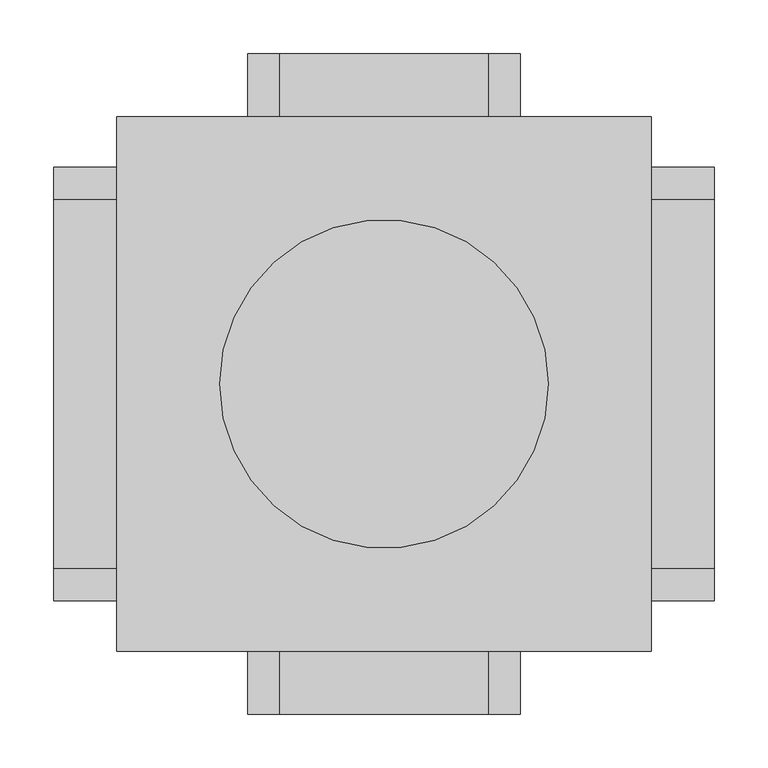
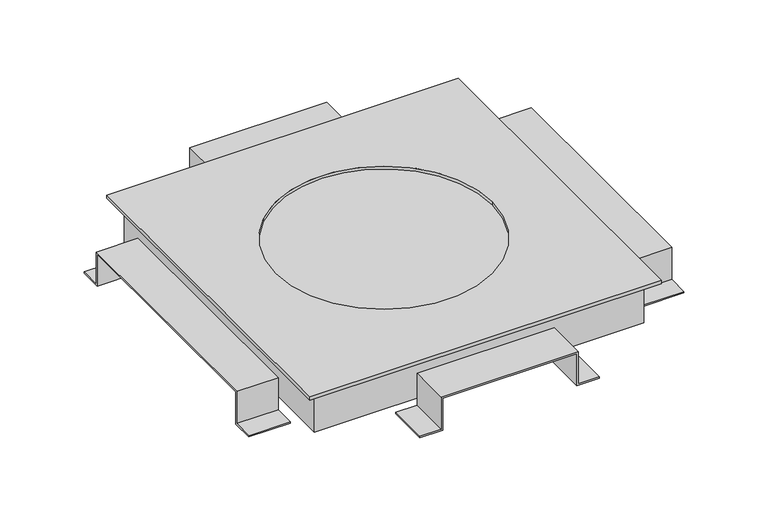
"""IFC4 building model written with IfcOpenShell, lengths in millimetres: cable carrier fitting geometry, Electrical-Installations_Hager_Universal-Junction-Box-With-Retaining-Tabs-Size-3 : Universal junction box with retaining tabs size 3."""

from ifc_helpers import new_model, si_unit, frame, origin, place, context, project, spatial, polyline, circle_curve, outline, extrude, faceted_brep, source, transform, mapped, element, save
from ifc_brep_helpers import plane_surface, revolved_surface, advanced_brep


def cable_carrier_fitting_cb3f23ee(model_context):
    return source(origin(), model_context, "Body", "SolidModel", [
        extrude(outline(polyline([(-24.0, -127.0), (-24.0, -95.0), (24.0, -95.0), (24.0, 95.0), (-24.0, 95.0), (-24.0, 127.0), (-22.0, 127.0), (-22.0, 97.0), (26.0, 97.0), (26.0, -97.0), (-22.0, -97.0), (-22.0, -127.0), (-24.0, -127.0)])), frame((0.0, 249.0, 0.0), z_axis=(0.0, 1.0, 0.0), x_axis=(0.0, 0.0, 1.0)), (0.0, 0.0, 1.0), 59.0),
        extrude(outline(polyline([(-202.0, -24.0), (-202.0, -22.0), (-172.0, -22.0), (-172.0, 26.0), (172.0, 26.0), (172.0, -22.0), (202.0, -22.0), (202.0, -24.0), (170.0, -24.0), (170.0, 24.0), (-170.0, 24.0), (-170.0, -24.0), (-202.0, -24.0)])), frame((-308.0, 0.0, 0.0), z_axis=(1.0, 0.0, 0.0), x_axis=(0.0, 1.0, 0.0)), (0.0, 0.0, 1.0), 59.0),
        extrude(outline(polyline([(-24.0, -127.0), (-24.0, -95.0), (24.0, -95.0), (24.0, 95.0), (-24.0, 95.0), (-24.0, 127.0), (-22.0, 127.0), (-22.0, 97.0), (26.0, 97.0), (26.0, -97.0), (-22.0, -97.0), (-22.0, -127.0), (-24.0, -127.0)])), frame((0.0, -308.0, 0.0), z_axis=(0.0, 1.0, 0.0), x_axis=(0.0, 0.0, 1.0)), (0.0, 0.0, 1.0), 59.0),
        extrude(outline(polyline([(-202.0, -24.0), (-202.0, -22.0), (-172.0, -22.0), (-172.0, 26.0), (172.0, 26.0), (172.0, -22.0), (202.0, -22.0), (202.0, -24.0), (170.0, -24.0), (170.0, 24.0), (-170.0, 24.0), (-170.0, -24.0), (-202.0, -24.0)])), frame((249.0, 0.0, 0.0), z_axis=(1.0, 0.0, 0.0), x_axis=(0.0, 1.0, 0.0)), (0.0, 0.0, 1.0), 59.0),
        advanced_brep(
        [(-249.0, -249.0, 44.0), (249.0, -249.0, 44.0), (249.0, 249.0, 44.0), (-249.0, 249.0, 44.0), (-153.0, 0.0, 44.0), (153.0, 0.0, 44.0), (-249.0, -249.0, 39.0), (-249.0, 249.0, 39.0), (249.0, 249.0, 39.0), (249.0, -249.0, 39.0), (227.0, 227.0, 39.0), (-227.0, 227.0, 39.0), (-227.0, -227.0, 39.0), (227.0, -227.0, 39.0), (-153.0, 0.0, 39.7820613), (153.0, 0.0, 39.7820613), (227.0, 227.0, 39.7820613), (227.0, -227.0, 39.7820613), (-227.0, -227.0, 39.7820613), (-227.0, 227.0, 39.7820613)],
        [
            (0, 1),
            (1, 2),
            (2, 3),
            (3, 0),
            (4, 5, circle_curve(frame((0.0, 0.0, 44.0), z_axis=(0.0, 0.0, -1.0), x_axis=(1.0, 0.0, 0.0)), 153.0)),
            (5, 4, circle_curve(frame((0.0, 0.0, 44.0), z_axis=(0.0, 0.0, -1.0), x_axis=(1.0, 0.0, 0.0)), 153.0)),
            (6, 7),
            (7, 8),
            (8, 9),
            (9, 6),
            (10, 11),
            (11, 12),
            (12, 13),
            (13, 10),
            (0, 6),
            (9, 1),
            (8, 2),
            (7, 3),
            (4, 14),
            (14, 15, circle_curve(frame((0.0, 0.0, 39.7820613), z_axis=(0.0, 0.0, -1.0), x_axis=(1.0, 0.0, 0.0)), 153.0)),
            (15, 5),
            (15, 14, circle_curve(frame((0.0, 0.0, 39.7820613), z_axis=(0.0, 0.0, -1.0), x_axis=(1.0, 0.0, 0.0)), 153.0)),
            (16, 17),
            (17, 18),
            (18, 19),
            (19, 16),
            (19, 11),
            (10, 16),
            (18, 12),
            (17, 13),
        ],
        [
            plane_surface(frame((-249.0, -249.0, 44.0), z_axis=(0.0, 0.0, 1.0), x_axis=(1.0, 0.0, 0.0))),
            plane_surface(frame((-249.0, -249.0, 39.0), z_axis=(0.0, 0.0, -1.0), x_axis=(-1.0, 0.0, 0.0))),
            plane_surface(frame((-249.0, -249.0, 44.0), z_axis=(0.0, -1.0, 0.0), x_axis=(0.0, 0.0, -1.0))),
            plane_surface(frame((249.0, -249.0, 44.0), z_axis=(1.0, 0.0, 0.0), x_axis=(0.0, 0.0, -1.0))),
            plane_surface(frame((249.0, 249.0, 44.0), z_axis=(0.0, 1.0, 0.0), x_axis=(0.0, 0.0, -1.0))),
            plane_surface(frame((-249.0, 249.0, 44.0), z_axis=(-1.0, 0.0, 0.0), x_axis=(0.0, 0.0, -1.0))),
            revolved_surface(polyline([(153.0, 0.0, 39.7820613), (153.0, 0.0, 44.0)]), (0.0, 0.0, 0.0), (0.0, 0.0, -1.0)),
            plane_surface(frame((-227.0, 227.0, 39.7820613), z_axis=(0.0, 0.0, -1.0), x_axis=(-1.0, 0.0, 0.0))),
            plane_surface(frame((227.0, 227.0, 39.7820613), z_axis=(0.0, -1.0, 0.0), x_axis=(0.0, 0.0, -1.0))),
            plane_surface(frame((-227.0, 227.0, 39.7820613), z_axis=(1.0, 0.0, 0.0), x_axis=(0.0, 0.0, -1.0))),
            plane_surface(frame((-227.0, -227.0, 39.7820613), z_axis=(0.0, 1.0, 0.0), x_axis=(0.0, 0.0, -1.0))),
            plane_surface(frame((227.0, -227.0, 39.7820613), z_axis=(-1.0, 0.0, 0.0), x_axis=(0.0, 0.0, -1.0))),
        ],
        [
            (0, [[1, 2, 3, 4], [5, 6]]),
            (1, [[7, 8, 9, 10], [11, 12, 13, 14]]),
            (2, [[-1, 15, -10, 16]]),
            (3, [[-2, -16, -9, 17]]),
            (4, [[-3, -17, -8, 18]]),
            (5, [[-4, -18, -7, -15]]),
            (6, [[-5, 19, 20, 21]]),
            (6, [[-6, -21, 22, -19]]),
            (7, [[23, 24, 25, 26], [-20, -22]]),
            (8, [[-26, 27, -11, 28]]),
            (9, [[-25, 29, -12, -27]]),
            (10, [[-24, 30, -13, -29]]),
            (11, [[-23, -28, -14, -30]]),
        ],
    ),
        faceted_brep([(-233.0, 233.0, 39.0), (-233.0, -233.0, 39.0), (233.0, -233.0, 39.0), (233.0, 233.0, 39.0), (-227.0, 227.0, 39.0), (227.0, 227.0, 39.0), (227.0, -227.0, 39.0), (-227.0, -227.0, 39.0), (-233.0, 233.0, -24.0), (233.0, 233.0, -24.0), (233.0, -233.0, -24.0), (-233.0, -233.0, -24.0), (227.0, 227.0, -16.1362798), (-227.0, 227.0, -16.1362798), (-227.0, -227.0, -16.1362798), (227.0, -227.0, -16.1362798)], [[[0, 1, 2, 3], [4, 5, 6, 7]], [[8, 9, 10, 11]], [[1, 0, 8, 11]], [[2, 1, 11, 10]], [[3, 2, 10, 9]], [[0, 3, 9, 8]], [[12, 13, 14, 15]], [[13, 12, 5, 4]], [[14, 13, 4, 7]], [[15, 14, 7, 6]], [[12, 15, 6, 5]]]),
    ])


if __name__ == "__main__":
    model = new_model("IFC4")
    model_context = context("Model", 3, world=origin())
    ifc_project = project(units=[si_unit("LENGTHUNIT", "METRE", prefix="MILLI")], contexts=[model_context])
    site = spatial("IfcSite", under=ifc_project)
    building = spatial("IfcBuilding", under=site)
    placement = place(None, origin())
    cable_carrier_fitting_shape = cable_carrier_fitting_cb3f23ee(model_context)
    element("IfcCableCarrierFitting", 1, ObjectType="Electrical-Installations_Hager_Universal-Junction-Box-With-Retaining-Tabs-Size-3 : Universal junction box with retaining tabs size 3", at=placement, inside=building, context=model_context, shape_type="MappedRepresentation", body=[
        mapped(cable_carrier_fitting_shape, transform((0.0, 0.0, 0.0), x_axis=(1.0, 0.0, 0.0), y_axis=(0.0, 1.0, 0.0), z_axis=(0.0, 0.0, 1.0))),
    ])
    save(model, "model.ifc")
